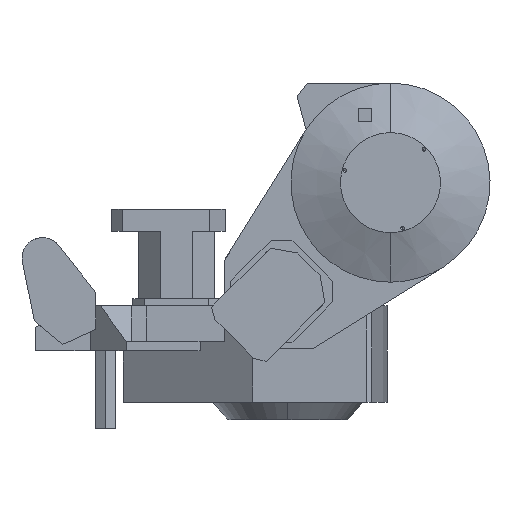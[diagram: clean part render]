
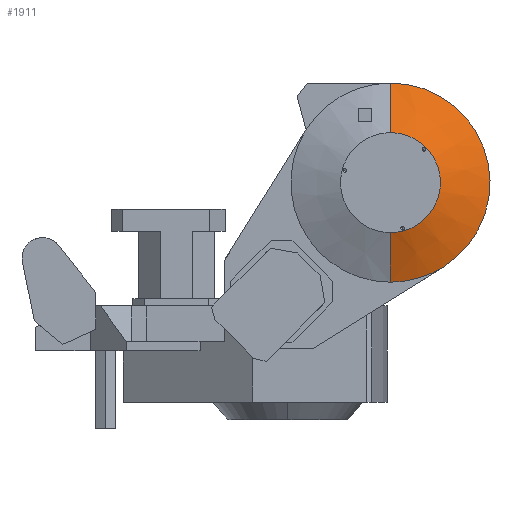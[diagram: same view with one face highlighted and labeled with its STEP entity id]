
A CAD part, front view. The second image highlights one B-rep face of the part: STEP entity #1911.
In plain terms, the highlighted conical face has half-angle 67.739 degrees and reference radius 194 mm.
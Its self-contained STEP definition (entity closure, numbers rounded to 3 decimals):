
#136 = ORIENTED_EDGE ( 'NONE', *, *, #1996, .F. ) ;
#356 = CARTESIAN_POINT ( 'NONE',  ( 302.804, -290., 515.479 ) ) ;
#560 = VERTEX_POINT ( 'NONE', #3871 ) ;
#1630 = ORIENTED_EDGE ( 'NONE', *, *, #2090, .T. ) ;
#1788 = VERTEX_POINT ( 'NONE', #3507 ) ;
#1905 = EDGE_CURVE ( 'NONE', #6233, #560, #5469, .T. ) ;
#1911 = ADVANCED_FACE ( 'NONE', ( #4154 ), #3805, .T. ) ;
#1913 = EDGE_CURVE ( 'NONE', #560, #2791, #3984, .T. ) ;
#1996 = EDGE_CURVE ( 'NONE', #3128, #2791, #2105, .T. ) ;
#2090 = EDGE_CURVE ( 'NONE', #3128, #1788, #5918, .T. ) ;
#2103 = EDGE_CURVE ( 'NONE', #6233, #1788, #2730, .T. ) ;
#2105 = CIRCLE ( 'NONE', #2732, 194. ) ;
#2327 = CARTESIAN_POINT ( 'NONE',  ( 200., -290., 486. ) ) ;
#2685 = AXIS2_PLACEMENT_3D ( 'NONE', #6919, #6910, #6903 ) ;
#2698 = AXIS2_PLACEMENT_3D ( 'NONE', #6946, #6939, #6929 ) ;
#2730 = LINE ( 'NONE', #5974, #5738 ) ;
#2732 = AXIS2_PLACEMENT_3D ( 'NONE', #6481, #6475, #6470 ) ;
#2791 = VERTEX_POINT ( 'NONE', #2327 ) ;
#2889 = AXIS2_PLACEMENT_3D ( 'NONE', #6102, #6090, #6064 ) ;
#3128 = VERTEX_POINT ( 'NONE', #356 ) ;
#3507 = CARTESIAN_POINT ( 'NONE',  ( 200., -290., 874. ) ) ;
#3805 = CONICAL_SURFACE ( 'NONE', #2698, 194., 1.182 ) ;
#3871 = CARTESIAN_POINT ( 'NONE',  ( 200., -329.5, 582.5 ) ) ;
#3984 = LINE ( 'NONE', #6862, #6722 ) ;
#4154 = FACE_OUTER_BOUND ( 'NONE', #4855, .T. ) ;
#4795 = ORIENTED_EDGE ( 'NONE', *, *, #2103, .F. ) ;
#4855 = EDGE_LOOP ( 'NONE', ( #6829, #6979, #136, #1630, #4795 ) ) ;
#4924 = CARTESIAN_POINT ( 'NONE',  ( 200., -329.5, 777.5 ) ) ;
#5469 = CIRCLE ( 'NONE', #2685, 97.5 ) ;
#5738 = VECTOR ( 'NONE', #5959, 1000. ) ;
#5918 = CIRCLE ( 'NONE', #2889, 194. ) ;
#5959 = DIRECTION ( 'NONE',  ( 0., 0.379, 0.925 ) ) ;
#5974 = CARTESIAN_POINT ( 'NONE',  ( 200., -290., 874. ) ) ;
#6064 = DIRECTION ( 'NONE',  ( 0., 0., 1. ) ) ;
#6090 = DIRECTION ( 'NONE',  ( 0., -1., 0. ) ) ;
#6102 = CARTESIAN_POINT ( 'NONE',  ( 200., -290., 680. ) ) ;
#6233 = VERTEX_POINT ( 'NONE', #4924 ) ;
#6470 = DIRECTION ( 'NONE',  ( 0., 0., 1. ) ) ;
#6475 = DIRECTION ( 'NONE',  ( 0., 1., 0. ) ) ;
#6481 = CARTESIAN_POINT ( 'NONE',  ( 200., -290., 680. ) ) ;
#6722 = VECTOR ( 'NONE', #6853, 1000. ) ;
#6829 = ORIENTED_EDGE ( 'NONE', *, *, #1905, .T. ) ;
#6853 = DIRECTION ( 'NONE',  ( 0., 0.379, -0.925 ) ) ;
#6862 = CARTESIAN_POINT ( 'NONE',  ( 200., -290., 486. ) ) ;
#6903 = DIRECTION ( 'NONE',  ( 0., 0., 1. ) ) ;
#6910 = DIRECTION ( 'NONE',  ( 0., 1., 0. ) ) ;
#6919 = CARTESIAN_POINT ( 'NONE',  ( 200., -329.5, 680. ) ) ;
#6929 = DIRECTION ( 'NONE',  ( 0., 0., 1. ) ) ;
#6939 = DIRECTION ( 'NONE',  ( 0., 1., 0. ) ) ;
#6946 = CARTESIAN_POINT ( 'NONE',  ( 200., -290., 680. ) ) ;
#6979 = ORIENTED_EDGE ( 'NONE', *, *, #1913, .T. ) ;
